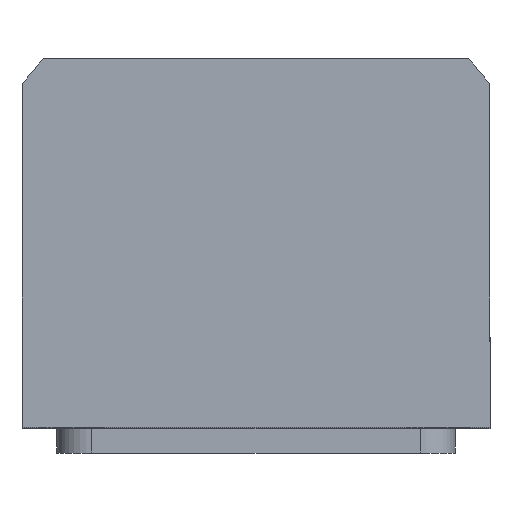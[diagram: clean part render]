
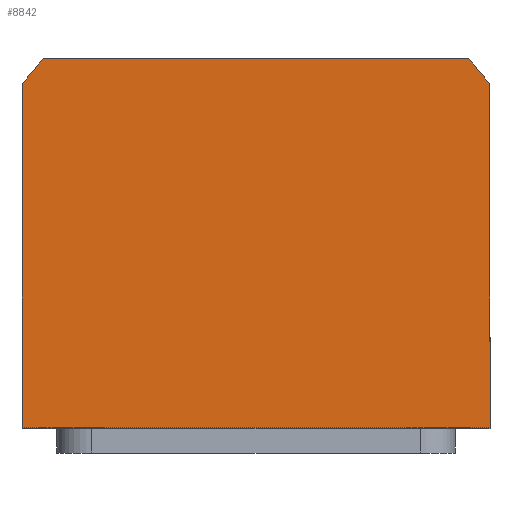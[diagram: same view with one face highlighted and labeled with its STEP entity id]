
A CAD part, top view. The second image highlights one B-rep face of the part: STEP entity #8842.
In plain terms, the highlighted planar face has unit normal (0, 0, 1).
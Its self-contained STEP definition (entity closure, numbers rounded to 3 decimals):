
#679 = VERTEX_POINT ( 'NONE', #3494 ) ;
#739 = AXIS2_PLACEMENT_3D ( 'NONE', #12775, #2082, #8013 ) ;
#1008 = CARTESIAN_POINT ( 'NONE',  ( 47., 34.832, 72.5 ) ) ;
#1011 = ORIENTED_EDGE ( 'NONE', *, *, #12798, .T. ) ;
#1618 = DIRECTION ( 'NONE',  ( 1., 0., 0. ) ) ;
#2082 = DIRECTION ( 'NONE',  ( 0., 0., 1. ) ) ;
#2499 = CARTESIAN_POINT ( 'NONE',  ( 47., -34., 72.5 ) ) ;
#2625 = EDGE_CURVE ( 'NONE', #679, #10778, #13217, .T. ) ;
#3489 = CARTESIAN_POINT ( 'NONE',  ( 0., 0., 72.5 ) ) ;
#3494 = CARTESIAN_POINT ( 'NONE',  ( 42.688, 40., 72.5 ) ) ;
#4210 = CARTESIAN_POINT ( 'NONE',  ( 47., -34., 72.5 ) ) ;
#5025 = CARTESIAN_POINT ( 'NONE',  ( -47., 34.832, 72.5 ) ) ;
#5036 = CARTESIAN_POINT ( 'NONE',  ( -42.688, 40., 72.5 ) ) ;
#5125 = CARTESIAN_POINT ( 'NONE',  ( 0., 0., 72.5 ) ) ;
#5449 = EDGE_CURVE ( 'NONE', #13398, #10749, #6971, .T. ) ;
#5637 = PLANE ( 'NONE',  #6707 ) ;
#6152 = CARTESIAN_POINT ( 'NONE',  ( -47., -34., 72.5 ) ) ;
#6295 = EDGE_CURVE ( 'NONE', #10778, #13398, #10634, .T. ) ;
#6616 = CARTESIAN_POINT ( 'NONE',  ( 47., 34.832, 72.5 ) ) ;
#6707 = AXIS2_PLACEMENT_3D ( 'NONE', #3489, #11534, #7989 ) ;
#6971 = LINE ( 'NONE', #10423, #13725 ) ;
#7326 = CIRCLE ( 'NONE', #12516, 58.5 ) ;
#7792 = VECTOR ( 'NONE', #14802, 1000. ) ;
#7802 = ORIENTED_EDGE ( 'NONE', *, *, #5449, .T. ) ;
#7858 = VECTOR ( 'NONE', #14929, 1000. ) ;
#7989 = DIRECTION ( 'NONE',  ( 1., 0., 0. ) ) ;
#8013 = DIRECTION ( 'NONE',  ( 1., 0., 0. ) ) ;
#8842 = ADVANCED_FACE ( 'NONE', ( #11811 ), #5637, .T. ) ;
#9005 = VERTEX_POINT ( 'NONE', #1008 ) ;
#9062 = ORIENTED_EDGE ( 'NONE', *, *, #12163, .T. ) ;
#9511 = LINE ( 'NONE', #4210, #7858 ) ;
#10282 = EDGE_CURVE ( 'NONE', #11979, #9005, #14389, .T. ) ;
#10423 = CARTESIAN_POINT ( 'NONE',  ( -47., -34., 72.5 ) ) ;
#10634 = CIRCLE ( 'NONE', #739, 58.5 ) ;
#10749 = VERTEX_POINT ( 'NONE', #6152 ) ;
#10778 = VERTEX_POINT ( 'NONE', #5036 ) ;
#10832 = CARTESIAN_POINT ( 'NONE',  ( -42.688, 40., 72.5 ) ) ;
#11534 = DIRECTION ( 'NONE',  ( 0., 0., 1. ) ) ;
#11811 = FACE_OUTER_BOUND ( 'NONE', #14928, .T. ) ;
#11963 = ORIENTED_EDGE ( 'NONE', *, *, #10282, .T. ) ;
#11979 = VERTEX_POINT ( 'NONE', #2499 ) ;
#12163 = EDGE_CURVE ( 'NONE', #9005, #679, #7326, .T. ) ;
#12516 = AXIS2_PLACEMENT_3D ( 'NONE', #5125, #13281, #1618 ) ;
#12775 = CARTESIAN_POINT ( 'NONE',  ( 0., 0., 72.5 ) ) ;
#12798 = EDGE_CURVE ( 'NONE', #10749, #11979, #9511, .T. ) ;
#13181 = DIRECTION ( 'NONE',  ( -1., 0., 0. ) ) ;
#13217 = LINE ( 'NONE', #10832, #13726 ) ;
#13281 = DIRECTION ( 'NONE',  ( 0., 0., 1. ) ) ;
#13398 = VERTEX_POINT ( 'NONE', #5025 ) ;
#13561 = ORIENTED_EDGE ( 'NONE', *, *, #2625, .T. ) ;
#13725 = VECTOR ( 'NONE', #13926, 1000. ) ;
#13726 = VECTOR ( 'NONE', #13181, 1000. ) ;
#13926 = DIRECTION ( 'NONE',  ( 0., -1., 0. ) ) ;
#13957 = ORIENTED_EDGE ( 'NONE', *, *, #6295, .T. ) ;
#14389 = LINE ( 'NONE', #6616, #7792 ) ;
#14802 = DIRECTION ( 'NONE',  ( 0., 1., 0. ) ) ;
#14928 = EDGE_LOOP ( 'NONE', ( #1011, #11963, #9062, #13561, #13957, #7802 ) ) ;
#14929 = DIRECTION ( 'NONE',  ( 1., 0., 0. ) ) ;
